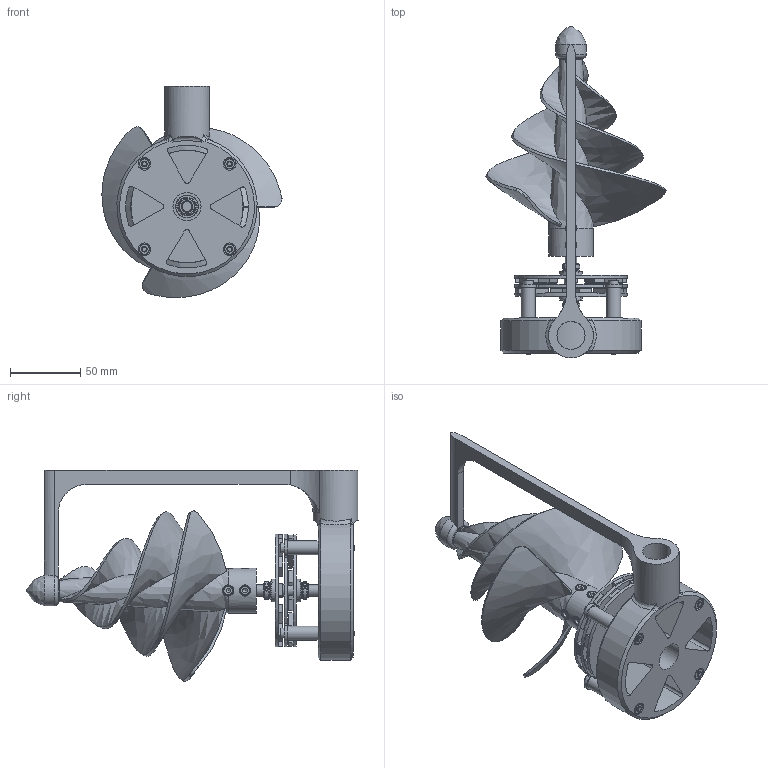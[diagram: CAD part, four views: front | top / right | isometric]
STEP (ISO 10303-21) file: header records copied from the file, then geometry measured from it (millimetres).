
FILE_DESCRIPTION(/* description */ (''),/* implementation_level */ '2;1');
FILE_NAME(/* name */ 'Assieme_turbina_Archimede2.stp',/* time_stamp */ '2024-12-23T14:02:51+01:00',/* author */ ('R5800u'),/* organization */ (''),/* preprocessor_version */ 'ST-DEVELOPER v20',/* originating_system */ 'Autodesk Inventor 2025',/* authorisation */ '');
FILE_SCHEMA (('AUTOMOTIVE_DESIGN { 1 0 10303 214 3 1 1 }'));
Length unit declared in the file: millimetre
Products named in the file (11): Assieme2; elica3; albero10mm; AS 1420 - 1973 - M4 x 8; fermo; Generator_Assembly_8mm; %3% BS 290 - SKF 618/8; distanziale; DIN 6912 - M4 x 50; AS 1112 - M4  Tipo 5; DIN 471 - 8x0,8
Assembly tree (25 placements, depth 2):
  Assieme2
    elica3
    albero10mm
    AS 1420 - 1973 - M4 x 8  x4
    %3% BS 290 - SKF 618/8  x4
    fermo
    Generator_Assembly_8mm
    distanziale  x4
    DIN 6912 - M4 x 50  x4
    AS 1112 - M4  Tipo 5  x4
    DIN 471 - 8x0,8
Bounding box: 128.33 x 236.47 x 150.45 mm (x, y, z)
Volume: 352594.2 mm3; surface area: 161584.6 mm2
Topology: 27 solids, 31 shells, 806 faces, 2145 edges, 1369 vertices
Faces by surface type: plane 357, cylinder 183, cone 109, torus 92, sphere 33, bspline 32
Full cylindrical faces by diameter (mm): 1.2 x8, 1.6 x12, 2 x4, 3.242 x4, 4 x12, 4.5 x12, 7 x9, 8 x11, 9 x4, 9.6 x2, 10 x4, 10.56 x8, 12 x2, 13.44 x8, 16 x8, 20 x3, 22 x1, 32 x2, 80 x2
Entity records: 21224 total; most frequent: CARTESIAN_POINT 8174, ORIENTED_EDGE 2570, DIRECTION 2491, EDGE_CURVE 1285, AXIS2_PLACEMENT_3D 943, VERTEX_POINT 828, EDGE_LOOP 627, LINE 605
